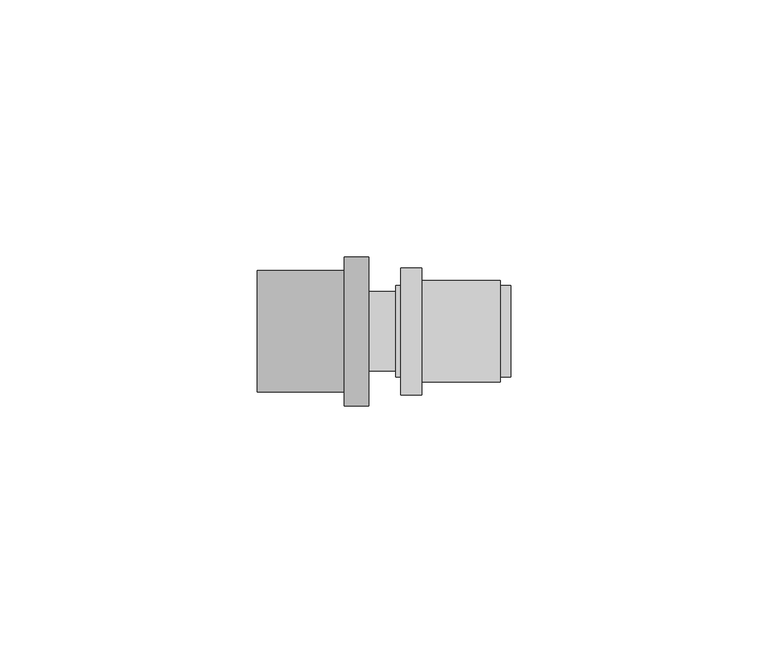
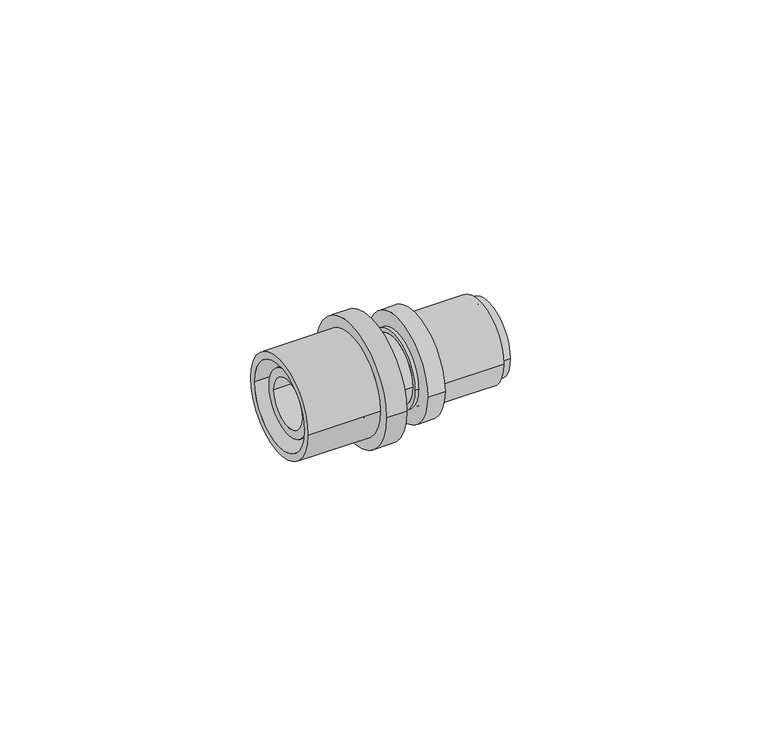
"""IFC4 building model written with IfcOpenShell, lengths in millimetres: pipe fitting geometry, FASTLOC_Coupling reduced EX+ : FSL C EX+ AT."""

from ifc_helpers import new_model, si_unit, frame, origin, place, context, project, spatial, polyline, circle_curve, source, transform, mapped, element, save
from ifc_brep_helpers import plane_surface, cylinder_surface, revolved_surface, advanced_brep


def pipe_fitting_b445dcfe(model_context):
    return source(origin(), model_context, "Body", "AdvancedBrep", [
        advanced_brep(
        [(6.3, 12.35, 0.0), (6.3, -12.35, 0.0), (2.3, -12.35, 0.0), (2.3, 12.35, 0.0), (21.6, 9.85, 0.0), (21.6, -9.85, 0.0), (6.3, -9.85, 0.0), (6.3, 9.85, 0.0), (2.3, 8.15, 0.0), (2.3, -8.15, 0.0), (21.6, -8.15, 0.0), (21.6, 8.15, 0.0)],
        [
            (0, 1, circle_curve(frame((6.3, 0.0, 0.0), z_axis=(-1.0, 0.0, 0.0), x_axis=(0.0, -1.0, 0.0)), 12.35)),
            (1, 2),
            (2, 3, circle_curve(frame((2.3, 0.0, 0.0), z_axis=(1.0, 0.0, 0.0), x_axis=(0.0, -1.0, 0.0)), 12.35)),
            (3, 0),
            (4, 5, circle_curve(frame((21.6, 0.0, 0.0), z_axis=(-1.0, 0.0, 0.0), x_axis=(0.0, -1.0, 0.0)), 9.85)),
            (5, 6),
            (6, 7, circle_curve(frame((6.3, 0.0, 0.0), z_axis=(1.0, 0.0, 0.0), x_axis=(0.0, -1.0, 0.0)), 9.85)),
            (7, 4),
            (8, 9, circle_curve(frame((2.3, 0.0, 0.0), z_axis=(-1.0, 0.0, 0.0), x_axis=(0.0, -1.0, 0.0)), 8.15)),
            (9, 10),
            (10, 11, circle_curve(frame((21.6, 0.0, 0.0), z_axis=(1.0, 0.0, 0.0), x_axis=(0.0, -1.0, 0.0)), 8.15)),
            (11, 8),
            (1, 0, circle_curve(frame((6.3, 0.0, 0.0), z_axis=(-1.0, 0.0, 0.0), x_axis=(0.0, 1.0, 0.0)), 12.35)),
            (3, 2, circle_curve(frame((2.3, 0.0, 0.0), z_axis=(1.0, 0.0, 0.0), x_axis=(0.0, 1.0, 0.0)), 12.35)),
            (6, 7, circle_curve(frame((6.3, 0.0, 0.0), z_axis=(-1.0, 0.0, 0.0), x_axis=(0.0, 1.0, 0.0)), 9.85)),
            (5, 4, circle_curve(frame((21.6, 0.0, 0.0), z_axis=(-1.0, 0.0, 0.0), x_axis=(0.0, 1.0, 0.0)), 9.85)),
            (10, 11, circle_curve(frame((21.6, 0.0, 0.0), z_axis=(-1.0, 0.0, 0.0), x_axis=(0.0, 1.0, 0.0)), 8.15)),
            (9, 8, circle_curve(frame((2.3, 0.0, 0.0), z_axis=(-1.0, 0.0, 0.0), x_axis=(0.0, 1.0, 0.0)), 8.15)),
        ],
        [
            cylinder_surface(frame((2.3, 0.0, 0.0), z_axis=(1.0, 0.0, 0.0), x_axis=(0.0, -1.0, 0.0)), 12.35),
            cylinder_surface(frame((2.3, 0.0, 0.0), z_axis=(1.0, 0.0, 0.0), x_axis=(0.0, -1.0, 0.0)), 9.85),
            revolved_surface(polyline([(21.6, -8.15, 0.0), (2.3, -8.15, 0.0)]), (2.3, 0.0, 0.0), (1.0, 0.0, 0.0)),
            cylinder_surface(frame((2.3, 0.0, 0.0), z_axis=(1.0, 0.0, 0.0), x_axis=(0.0, 1.0, 0.0)), 12.35),
            plane_surface(frame((6.3, 0.0, 0.0), z_axis=(1.0, 0.0, 0.0), x_axis=(0.0, 1.0, 0.0))),
            cylinder_surface(frame((2.3, 0.0, 0.0), z_axis=(1.0, 0.0, 0.0), x_axis=(0.0, 1.0, 0.0)), 9.85),
            plane_surface(frame((21.6, 0.0, 0.0), z_axis=(1.0, 0.0, 0.0), x_axis=(0.0, 1.0, 0.0))),
            revolved_surface(polyline([(21.6, 8.15, 0.0), (2.3, 8.15, 0.0)]), (2.3, 0.0, 0.0), (1.0, 0.0, 0.0)),
            plane_surface(frame((2.3, 0.0, 0.0), z_axis=(-1.0, 0.0, 0.0), x_axis=(0.0, 1.0, 0.0))),
        ],
        [
            (0, [[1, 2, 3, 4]]),
            (1, [[5, 6, 7, 8]]),
            (2, [[9, 10, 11, 12]]),
            (3, [[13, -4, 14, -2]]),
            (4, [[-13, -1], [15, -7]]),
            (5, [[16, -8, -15, -6]]),
            (6, [[-16, -5], [17, -11]]),
            (7, [[18, -12, -17, -10]]),
            (8, [[-14, -3], [-18, -9]]),
        ],
    ),
        advanced_brep(
        [(-8.7, -14.5, 0.0), (-8.7, 14.5, 0.0), (-4.0, 14.5, 0.0), (-4.0, -14.5, 0.0), (-25.7, -11.85, 0.0), (-25.7, 11.85, 0.0), (-8.7, 11.85, 0.0), (-8.7, -11.85, 0.0), (-4.0, -10.15, 0.0), (-4.0, 10.15, 0.0), (-25.7, 10.15, 0.0), (-25.7, -10.15, 0.0)],
        [
            (0, 1, circle_curve(frame((-8.7, 0.0, 0.0), z_axis=(1.0, 0.0, 0.0), x_axis=(0.0, 1.0, 0.0)), 14.5)),
            (1, 2),
            (2, 3, circle_curve(frame((-4.0, 0.0, 0.0), z_axis=(-1.0, 0.0, 0.0), x_axis=(0.0, 1.0, 0.0)), 14.5)),
            (3, 0),
            (4, 5, circle_curve(frame((-25.7, 0.0, 0.0), z_axis=(1.0, 0.0, 0.0), x_axis=(0.0, 1.0, 0.0)), 11.85)),
            (5, 6),
            (6, 7, circle_curve(frame((-8.7, 0.0, 0.0), z_axis=(-1.0, 0.0, 0.0), x_axis=(0.0, 1.0, 0.0)), 11.85)),
            (7, 4),
            (8, 9, circle_curve(frame((-4.0, 0.0, 0.0), z_axis=(1.0, 0.0, 0.0), x_axis=(0.0, 1.0, 0.0)), 10.15)),
            (9, 10),
            (10, 11, circle_curve(frame((-25.7, 0.0, 0.0), z_axis=(-1.0, 0.0, 0.0), x_axis=(0.0, 1.0, 0.0)), 10.15)),
            (11, 8),
            (1, 0, circle_curve(frame((-8.7, 0.0, 0.0), z_axis=(1.0, 0.0, 0.0), x_axis=(0.0, -1.0, 0.0)), 14.5)),
            (3, 2, circle_curve(frame((-4.0, 0.0, 0.0), z_axis=(-1.0, 0.0, 0.0), x_axis=(0.0, -1.0, 0.0)), 14.5)),
            (6, 7, circle_curve(frame((-8.7, 0.0, 0.0), z_axis=(1.0, 0.0, 0.0), x_axis=(0.0, -1.0, 0.0)), 11.85)),
            (5, 4, circle_curve(frame((-25.7, 0.0, 0.0), z_axis=(1.0, 0.0, 0.0), x_axis=(0.0, -1.0, 0.0)), 11.85)),
            (10, 11, circle_curve(frame((-25.7, 0.0, 0.0), z_axis=(1.0, 0.0, 0.0), x_axis=(0.0, -1.0, 0.0)), 10.15)),
            (9, 8, circle_curve(frame((-4.0, 0.0, 0.0), z_axis=(1.0, 0.0, 0.0), x_axis=(0.0, -1.0, 0.0)), 10.15)),
        ],
        [
            cylinder_surface(frame((-4.0, 0.0, 0.0), z_axis=(-1.0, 0.0, 0.0), x_axis=(0.0, 1.0, 0.0)), 14.5),
            cylinder_surface(frame((-4.0, 0.0, 0.0), z_axis=(-1.0, 0.0, 0.0), x_axis=(0.0, 1.0, 0.0)), 11.85),
            revolved_surface(polyline([(-25.7, 10.15, 0.0), (-4.0, 10.15, 0.0)]), (-4.0, 0.0, 0.0), (-1.0, 0.0, 0.0)),
            cylinder_surface(frame((-4.0, 0.0, 0.0), z_axis=(-1.0, 0.0, 0.0), x_axis=(0.0, -1.0, 0.0)), 14.5),
            plane_surface(frame((-8.7, 0.0, 0.0), z_axis=(-1.0, 0.0, 0.0), x_axis=(0.0, -1.0, 0.0))),
            cylinder_surface(frame((-4.0, 0.0, 0.0), z_axis=(-1.0, 0.0, 0.0), x_axis=(0.0, -1.0, 0.0)), 11.85),
            plane_surface(frame((-25.7, 0.0, 0.0), z_axis=(-1.0, 0.0, 0.0), x_axis=(0.0, -1.0, 0.0))),
            revolved_surface(polyline([(-25.7, -10.15, 0.0), (-4.0, -10.15, 0.0)]), (-4.0, 0.0, 0.0), (-1.0, 0.0, 0.0)),
            plane_surface(frame((-4.0, 0.0, 0.0), z_axis=(1.0, 0.0, 0.0), x_axis=(0.0, -1.0, 0.0))),
        ],
        [
            (0, [[1, 2, 3, 4]]),
            (1, [[5, 6, 7, 8]]),
            (2, [[9, 10, 11, 12]]),
            (3, [[13, -4, 14, -2]]),
            (4, [[-13, -1], [15, -7]]),
            (5, [[16, -8, -15, -6]]),
            (6, [[-16, -5], [17, -11]]),
            (7, [[18, -12, -17, -10]]),
            (8, [[-14, -3], [-18, -9]]),
        ],
    ),
        advanced_brep(
        [(1.3, 7.75, 0.0), (1.3, -7.75, 0.0), (-6.0, -7.75, 0.0), (-6.0, 7.75, 0.0), (-6.0, 8.8, 0.0), (-6.0, -8.8, 0.0), (-8.7, -8.8, 0.0), (-8.7, 8.8, 0.0), (-8.7, 7.75, 0.0), (-8.7, -7.75, 0.0), (-23.7, -7.75, 0.0), (-23.7, 7.75, 0.0), (-23.7, 5.75, 0.0), (-23.7, -5.75, 0.0), (7.85, -5.75, 0.0), (7.85, 5.75, 0.0), (7.85, 7.05, 0.0), (7.85, -7.05, 0.0), (23.7, -7.05, 0.0), (23.7, 7.05, 0.0), (23.7, 8.9, 0.0), (23.7, -8.9, 0.0), (6.3, -8.9, 0.0), (6.3, 8.9, 0.0), (6.3, 10.0, 0.0), (6.3, -10.0, 0.0), (3.6, -10.0, 0.0), (3.6, 10.0, 0.0), (3.6, 8.9, 0.0), (3.6, -8.9, 0.0), (1.3, -8.9, 0.0), (1.3, 8.9, 0.0)],
        [
            (0, 1, circle_curve(frame((1.3, 0.0, 0.0), z_axis=(-1.0, 0.0, 0.0), x_axis=(0.0, -1.0, 0.0)), 7.75)),
            (1, 2),
            (2, 3, circle_curve(frame((-6.0, 0.0, 0.0), z_axis=(1.0, 0.0, 0.0), x_axis=(0.0, -1.0, 0.0)), 7.75)),
            (3, 0),
            (4, 5, circle_curve(frame((-6.0, 0.0, 0.0), z_axis=(-1.0, 0.0, 0.0), x_axis=(0.0, -1.0, 0.0)), 8.8)),
            (5, 6),
            (6, 7, circle_curve(frame((-8.7, 0.0, 0.0), z_axis=(1.0, 0.0, 0.0), x_axis=(0.0, -1.0, 0.0)), 8.8)),
            (7, 4),
            (8, 9, circle_curve(frame((-8.7, 0.0, 0.0), z_axis=(-1.0, 0.0, 0.0), x_axis=(0.0, -1.0, 0.0)), 7.75)),
            (9, 10),
            (10, 11, circle_curve(frame((-23.7, 0.0, 0.0), z_axis=(1.0, 0.0, 0.0), x_axis=(0.0, -1.0, 0.0)), 7.75)),
            (11, 8),
            (12, 13, circle_curve(frame((-23.7, 0.0, 0.0), z_axis=(-1.0, 0.0, 0.0), x_axis=(0.0, -1.0, 0.0)), 5.75)),
            (13, 14),
            (14, 15, circle_curve(frame((7.85, 0.0, 0.0), z_axis=(1.0, 0.0, 0.0), x_axis=(0.0, -1.0, 0.0)), 5.75)),
            (15, 12),
            (16, 17, circle_curve(frame((7.85, 0.0, 0.0), z_axis=(-1.0, 0.0, 0.0), x_axis=(0.0, -1.0, 0.0)), 7.05)),
            (17, 18),
            (18, 19, circle_curve(frame((23.7, 0.0, 0.0), z_axis=(1.0, 0.0, 0.0), x_axis=(0.0, -1.0, 0.0)), 7.05)),
            (19, 16),
            (20, 21, circle_curve(frame((23.7, 0.0, 0.0), z_axis=(-1.0, 0.0, 0.0), x_axis=(0.0, -1.0, 0.0)), 8.9)),
            (21, 22),
            (22, 23, circle_curve(frame((6.3, 0.0, 0.0), z_axis=(1.0, 0.0, 0.0), x_axis=(0.0, -1.0, 0.0)), 8.9)),
            (23, 20),
            (24, 25, circle_curve(frame((6.3, 0.0, 0.0), z_axis=(-1.0, 0.0, 0.0), x_axis=(0.0, -1.0, 0.0)), 10.0)),
            (25, 26),
            (26, 27, circle_curve(frame((3.6, 0.0, 0.0), z_axis=(1.0, 0.0, 0.0), x_axis=(0.0, -1.0, 0.0)), 10.0)),
            (27, 24),
            (28, 29, circle_curve(frame((3.6, 0.0, 0.0), z_axis=(-1.0, 0.0, 0.0), x_axis=(0.0, -1.0, 0.0)), 8.9)),
            (29, 30),
            (30, 31, circle_curve(frame((1.3, 0.0, 0.0), z_axis=(1.0, 0.0, 0.0), x_axis=(0.0, -1.0, 0.0)), 8.9)),
            (31, 28),
            (1, 0, circle_curve(frame((1.3, 0.0, 0.0), z_axis=(-1.0, 0.0, 0.0), x_axis=(0.0, 1.0, 0.0)), 7.75)),
            (3, 2, circle_curve(frame((-6.0, 0.0, 0.0), z_axis=(1.0, 0.0, 0.0), x_axis=(0.0, 1.0, 0.0)), 7.75)),
            (4, 5, circle_curve(frame((-6.0, 0.0, 0.0), z_axis=(1.0, 0.0, 0.0), x_axis=(0.0, 1.0, 0.0)), 8.8)),
            (7, 6, circle_curve(frame((-8.7, 0.0, 0.0), z_axis=(1.0, 0.0, 0.0), x_axis=(0.0, 1.0, 0.0)), 8.8)),
            (8, 9, circle_curve(frame((-8.7, 0.0, 0.0), z_axis=(1.0, 0.0, 0.0), x_axis=(0.0, 1.0, 0.0)), 7.75)),
            (11, 10, circle_curve(frame((-23.7, 0.0, 0.0), z_axis=(1.0, 0.0, 0.0), x_axis=(0.0, 1.0, 0.0)), 7.75)),
            (12, 13, circle_curve(frame((-23.7, 0.0, 0.0), z_axis=(1.0, 0.0, 0.0), x_axis=(0.0, 1.0, 0.0)), 5.75)),
            (15, 14, circle_curve(frame((7.85, 0.0, 0.0), z_axis=(1.0, 0.0, 0.0), x_axis=(0.0, 1.0, 0.0)), 5.75)),
            (16, 17, circle_curve(frame((7.85, 0.0, 0.0), z_axis=(1.0, 0.0, 0.0), x_axis=(0.0, 1.0, 0.0)), 7.05)),
            (19, 18, circle_curve(frame((23.7, 0.0, 0.0), z_axis=(1.0, 0.0, 0.0), x_axis=(0.0, 1.0, 0.0)), 7.05)),
            (20, 21, circle_curve(frame((23.7, 0.0, 0.0), z_axis=(1.0, 0.0, 0.0), x_axis=(0.0, 1.0, 0.0)), 8.9)),
            (23, 22, circle_curve(frame((6.3, 0.0, 0.0), z_axis=(1.0, 0.0, 0.0), x_axis=(0.0, 1.0, 0.0)), 8.9)),
            (24, 25, circle_curve(frame((6.3, 0.0, 0.0), z_axis=(1.0, 0.0, 0.0), x_axis=(0.0, 1.0, 0.0)), 10.0)),
            (27, 26, circle_curve(frame((3.6, 0.0, 0.0), z_axis=(1.0, 0.0, 0.0), x_axis=(0.0, 1.0, 0.0)), 10.0)),
            (28, 29, circle_curve(frame((3.6, 0.0, 0.0), z_axis=(1.0, 0.0, 0.0), x_axis=(0.0, 1.0, 0.0)), 8.9)),
            (31, 30, circle_curve(frame((1.3, 0.0, 0.0), z_axis=(1.0, 0.0, 0.0), x_axis=(0.0, 1.0, 0.0)), 8.9)),
        ],
        [
            cylinder_surface(frame((0.0, 0.0, 0.0), z_axis=(1.0, 0.0, 0.0), x_axis=(0.0, -1.0, 0.0)), 7.75),
            cylinder_surface(frame((0.0, 0.0, 0.0), z_axis=(1.0, 0.0, 0.0), x_axis=(0.0, -1.0, 0.0)), 8.8),
            revolved_surface(polyline([(7.85, -5.75, 0.0), (-23.7, -5.75, 0.0)]), (0.0, 0.0, 0.0), (1.0, 0.0, 0.0)),
            revolved_surface(polyline([(23.7, -7.05, 0.0), (7.85, -7.05, 0.0)]), (0.0, 0.0, 0.0), (1.0, 0.0, 0.0)),
            cylinder_surface(frame((0.0, 0.0, 0.0), z_axis=(1.0, 0.0, 0.0), x_axis=(0.0, -1.0, 0.0)), 8.9),
            cylinder_surface(frame((0.0, 0.0, 0.0), z_axis=(1.0, 0.0, 0.0), x_axis=(0.0, -1.0, 0.0)), 10.0),
            cylinder_surface(frame((0.0, 0.0, 0.0), z_axis=(1.0, 0.0, 0.0), x_axis=(0.0, 1.0, 0.0)), 7.75),
            plane_surface(frame((-6.0, 0.0, 0.0), z_axis=(1.0, 0.0, 0.0), x_axis=(0.0, 1.0, 0.0))),
            cylinder_surface(frame((0.0, 0.0, 0.0), z_axis=(1.0, 0.0, 0.0), x_axis=(0.0, 1.0, 0.0)), 8.8),
            plane_surface(frame((-8.7, 0.0, 0.0), z_axis=(-1.0, 0.0, 0.0), x_axis=(0.0, 1.0, 0.0))),
            plane_surface(frame((-23.7, 0.0, 0.0), z_axis=(-1.0, 0.0, 0.0), x_axis=(0.0, 1.0, 0.0))),
            revolved_surface(polyline([(7.85, 5.75, 0.0), (-23.7, 5.75, 0.0)]), (0.0, 0.0, 0.0), (1.0, 0.0, 0.0)),
            plane_surface(frame((7.85, 0.0, 0.0), z_axis=(1.0, 0.0, 0.0), x_axis=(0.0, 1.0, 0.0))),
            revolved_surface(polyline([(23.7, 7.05, 0.0), (7.85, 7.05, 0.0)]), (0.0, 0.0, 0.0), (1.0, 0.0, 0.0)),
            plane_surface(frame((23.7, 0.0, 0.0), z_axis=(1.0, 0.0, 0.0), x_axis=(0.0, 1.0, 0.0))),
            cylinder_surface(frame((0.0, 0.0, 0.0), z_axis=(1.0, 0.0, 0.0), x_axis=(0.0, 1.0, 0.0)), 8.9),
            plane_surface(frame((6.3, 0.0, 0.0), z_axis=(1.0, 0.0, 0.0), x_axis=(0.0, 1.0, 0.0))),
            cylinder_surface(frame((0.0, 0.0, 0.0), z_axis=(1.0, 0.0, 0.0), x_axis=(0.0, 1.0, 0.0)), 10.0),
            plane_surface(frame((3.6, 0.0, 0.0), z_axis=(-1.0, 0.0, 0.0), x_axis=(0.0, 1.0, 0.0))),
            plane_surface(frame((1.3, 0.0, 0.0), z_axis=(-1.0, 0.0, 0.0), x_axis=(0.0, 1.0, 0.0))),
        ],
        [
            (0, [[1, 2, 3, 4]]),
            (1, [[5, 6, 7, 8]]),
            (0, [[9, 10, 11, 12]]),
            (2, [[13, 14, 15, 16]]),
            (3, [[17, 18, 19, 20]]),
            (4, [[21, 22, 23, 24]]),
            (5, [[25, 26, 27, 28]]),
            (4, [[29, 30, 31, 32]]),
            (6, [[33, -4, 34, -2]]),
            (7, [[35, -5], [-34, -3]]),
            (8, [[-35, -8, 36, -6]]),
            (9, [[-36, -7], [37, -9]]),
            (6, [[-37, -12, 38, -10]]),
            (10, [[-38, -11], [39, -13]]),
            (11, [[-39, -16, 40, -14]]),
            (12, [[41, -17], [-40, -15]]),
            (13, [[-41, -20, 42, -18]]),
            (14, [[43, -21], [-42, -19]]),
            (15, [[-43, -24, 44, -22]]),
            (16, [[45, -25], [-44, -23]]),
            (17, [[-45, -28, 46, -26]]),
            (18, [[-46, -27], [47, -29]]),
            (15, [[-47, -32, 48, -30]]),
            (19, [[-48, -31], [-33, -1]]),
        ],
    ),
    ])


if __name__ == "__main__":
    model = new_model("IFC4")
    model_context = context("Model", 3, world=origin())
    ifc_project = project(units=[si_unit("LENGTHUNIT", "METRE", prefix="MILLI")], contexts=[model_context])
    site = spatial("IfcSite", under=ifc_project)
    building = spatial("IfcBuilding", under=site)
    placement = place(None, origin())
    pipe_fitting_shape = pipe_fitting_b445dcfe(model_context)
    element("IfcPipeFitting", 1, ObjectType="FASTLOC_Coupling reduced EX+ : FSL C EX+ AT", at=placement, inside=building, context=model_context, shape_type="MappedRepresentation", body=[
        mapped(pipe_fitting_shape, transform((0.0, 0.0, 0.0), x_axis=(1.0, 0.0, 0.0), y_axis=(0.0, 1.0, 0.0), z_axis=(0.0, 0.0, 1.0))),
    ])
    save(model, "model.ifc")
